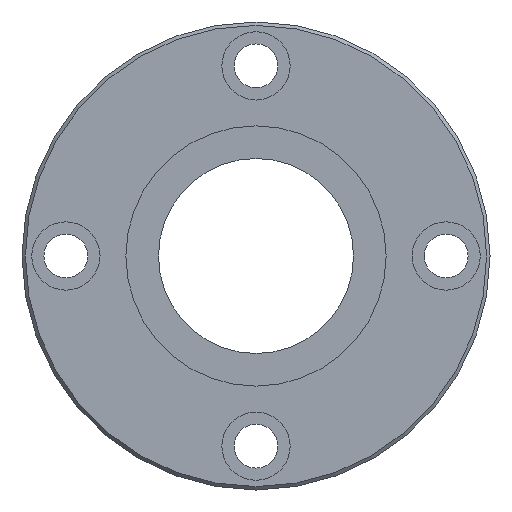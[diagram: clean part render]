
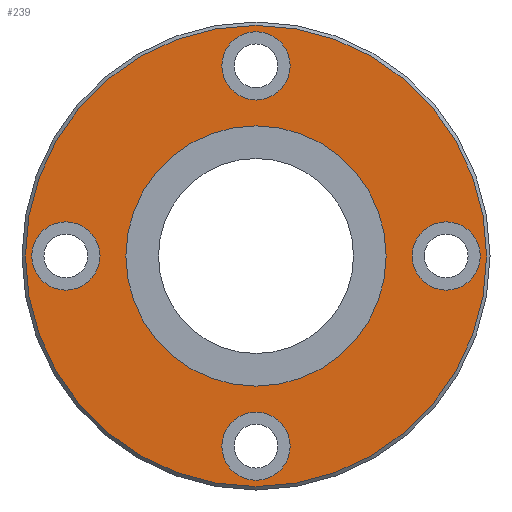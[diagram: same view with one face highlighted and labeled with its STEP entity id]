
A CAD part, left-side view. The second image highlights one B-rep face of the part: STEP entity #239.
In plain terms, the highlighted planar face has unit normal (-1, 0, 0).
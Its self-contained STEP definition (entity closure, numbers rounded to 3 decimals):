
#164=CARTESIAN_POINT('',(0.,0.,47.3));
#165=VERTEX_POINT('',#164);
#166=CARTESIAN_POINT('',(0.,0.0,0.0));
#167=DIRECTION('',(1.0,0.0,0.0));
#168=DIRECTION('',(0.0,0.0,-1.0));
#169=AXIS2_PLACEMENT_3D('',#166,#167,#168);
#170=CIRCLE('',#169,47.3);
#171=EDGE_CURVE('',#165,#165,#170,.T.);
#176=CARTESIAN_POINT('',(0.,0.0,28.35));
#177=DIRECTION('',(-1.0,0.0,0.0));
#178=DIRECTION('',(0.0,0.0,1.0));
#179=AXIS2_PLACEMENT_3D('',#176,#177,#178);
#180=PLANE('',#179);
#181=ORIENTED_EDGE('',*,*,#171,.F.);
#182=EDGE_LOOP('',(#181));
#183=FACE_OUTER_BOUND('',#182,.T.);
#184=CARTESIAN_POINT('',(0.,0.0,26.7));
#185=VERTEX_POINT('',#184);
#186=CARTESIAN_POINT('',(0.,0.0,0.0));
#187=DIRECTION('',(-1.0,0.0,0.0));
#188=DIRECTION('',(0.0,0.0,1.0));
#189=AXIS2_PLACEMENT_3D('',#186,#187,#188);
#190=CIRCLE('',#189,26.7);
#191=EDGE_CURVE('',#185,#185,#190,.T.);
#192=ORIENTED_EDGE('',*,*,#191,.F.);
#193=EDGE_LOOP('',(#192));
#194=FACE_BOUND('',#193,.T.);
#195=CARTESIAN_POINT('',(0.0,46.,0.));
#196=VERTEX_POINT('',#195);
#197=CARTESIAN_POINT('',(0.,39.0,0.));
#198=DIRECTION('',(1.0,0.0,0.0));
#199=DIRECTION('',(0.0,1.0,0.0));
#200=AXIS2_PLACEMENT_3D('',#197,#198,#199);
#201=CIRCLE('',#200,7.);
#202=EDGE_CURVE('',#196,#196,#201,.T.);
#203=ORIENTED_EDGE('',*,*,#202,.T.);
#204=EDGE_LOOP('',(#203));
#205=FACE_BOUND('',#204,.T.);
#206=CARTESIAN_POINT('',(0.0,-32.0,0.));
#207=VERTEX_POINT('',#206);
#208=CARTESIAN_POINT('',(0.,-39.0,0.));
#209=DIRECTION('',(1.0,0.0,0.0));
#210=DIRECTION('',(0.0,1.0,0.0));
#211=AXIS2_PLACEMENT_3D('',#208,#209,#210);
#212=CIRCLE('',#211,7.);
#213=EDGE_CURVE('',#207,#207,#212,.T.);
#214=ORIENTED_EDGE('',*,*,#213,.T.);
#215=EDGE_LOOP('',(#214));
#216=FACE_BOUND('',#215,.T.);
#217=CARTESIAN_POINT('',(0.0,7.,39.0));
#218=VERTEX_POINT('',#217);
#219=CARTESIAN_POINT('',(0.,0.,39.0));
#220=DIRECTION('',(1.0,0.0,0.0));
#221=DIRECTION('',(0.0,1.0,0.0));
#222=AXIS2_PLACEMENT_3D('',#219,#220,#221);
#223=CIRCLE('',#222,7.);
#224=EDGE_CURVE('',#218,#218,#223,.T.);
#225=ORIENTED_EDGE('',*,*,#224,.T.);
#226=EDGE_LOOP('',(#225));
#227=FACE_BOUND('',#226,.T.);
#228=CARTESIAN_POINT('',(0.0,7.,-39.0));
#229=VERTEX_POINT('',#228);
#230=CARTESIAN_POINT('',(0.,0.,-39.0));
#231=DIRECTION('',(1.0,0.0,0.0));
#232=DIRECTION('',(0.0,1.0,0.0));
#233=AXIS2_PLACEMENT_3D('',#230,#231,#232);
#234=CIRCLE('',#233,7.);
#235=EDGE_CURVE('',#229,#229,#234,.T.);
#236=ORIENTED_EDGE('',*,*,#235,.T.);
#237=EDGE_LOOP('',(#236));
#238=FACE_BOUND('',#237,.T.);
#239=ADVANCED_FACE('',(#183,#194,#205,#216,#227,#238),#180,.T.);
